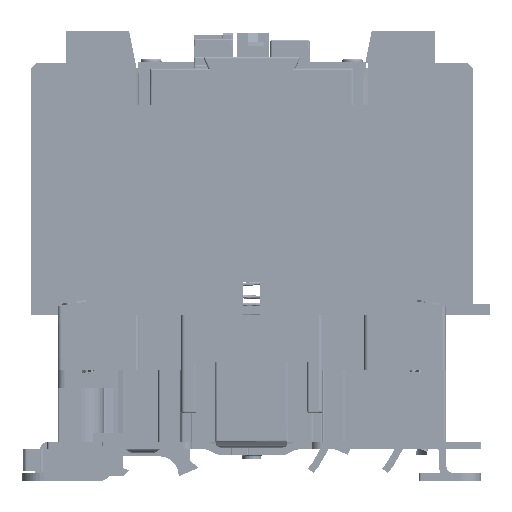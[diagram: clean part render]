
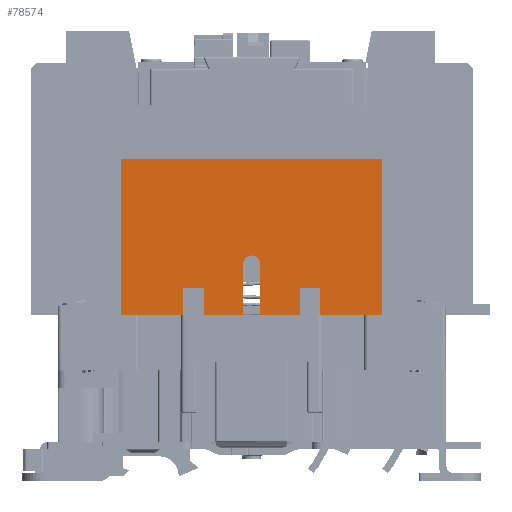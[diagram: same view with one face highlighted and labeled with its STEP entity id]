
A CAD part, front view. The second image highlights one B-rep face of the part: STEP entity #78574.
In plain terms, the highlighted planar face has unit normal (0, -1, 0) as drawn and (1, 0, 0) by its records, which use the part's own axes.
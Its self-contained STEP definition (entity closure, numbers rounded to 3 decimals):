
#74211=DIRECTION('',(0.,0.,-1.));
#74212=VECTOR('',#74211,10.9);
#74213=CARTESIAN_POINT('',(71.2,0.,-2.35));
#74214=LINE('',#74213,#74212);
#74227=DIRECTION('',(0.,0.,-1.));
#74228=VECTOR('',#74227,17.15);
#74229=CARTESIAN_POINT('',(71.2,0.,-18.85));
#74230=LINE('',#74229,#74228);
#74363=DIRECTION('',(0.,0.,-1.));
#74364=VECTOR('',#74363,17.15);
#74365=CARTESIAN_POINT('',(71.2,0.,36.));
#74366=LINE('',#74365,#74364);
#74379=DIRECTION('',(0.,0.,-1.));
#74380=VECTOR('',#74379,10.9);
#74381=CARTESIAN_POINT('',(71.2,0.,13.25));
#74382=LINE('',#74381,#74380);
#75579=DIRECTION('',(0.,1.,0.));
#75580=VECTOR('',#75579,14.15);
#75581=CARTESIAN_POINT('',(71.2,0.,2.35));
#75582=LINE('',#75581,#75580);
#75583=DIRECTION('',(0.,-1.,0.));
#75584=VECTOR('',#75583,43.);
#75585=CARTESIAN_POINT('',(71.2,43.,36.));
#75586=LINE('',#75585,#75584);
#75587=DIRECTION('',(0.,0.,1.));
#75588=VECTOR('',#75587,72.);
#75589=CARTESIAN_POINT('',(71.2,43.,-36.));
#75590=LINE('',#75589,#75588);
#75591=DIRECTION('',(0.,1.,0.));
#75592=VECTOR('',#75591,43.);
#75593=CARTESIAN_POINT('',(71.2,0.,-36.));
#75594=LINE('',#75593,#75592);
#75785=DIRECTION('',(0.,1.,0.));
#75786=VECTOR('',#75785,7.5);
#75787=CARTESIAN_POINT('',(71.2,0.,-18.85));
#75788=LINE('',#75787,#75786);
#75813=DIRECTION('',(0.,-1.,0.));
#75814=VECTOR('',#75813,7.5);
#75815=CARTESIAN_POINT('',(71.2,7.5,18.85));
#75816=LINE('',#75815,#75814);
#75821=DIRECTION('',(0.,0.,1.));
#75822=VECTOR('',#75821,5.6);
#75823=CARTESIAN_POINT('',(71.2,7.5,13.25));
#75824=LINE('',#75823,#75822);
#75829=DIRECTION('',(0.,1.,0.));
#75830=VECTOR('',#75829,7.5);
#75831=CARTESIAN_POINT('',(71.2,0.,13.25));
#75832=LINE('',#75831,#75830);
#75833=DIRECTION('',(0.,-1.,0.));
#75834=VECTOR('',#75833,7.5);
#75835=CARTESIAN_POINT('',(71.2,7.5,-13.25));
#75836=LINE('',#75835,#75834);
#75841=DIRECTION('',(0.,0.,1.));
#75842=VECTOR('',#75841,5.6);
#75843=CARTESIAN_POINT('',(71.2,7.5,-18.85));
#75844=LINE('',#75843,#75842);
#75857=DIRECTION('',(0.,-1.,0.));
#75858=VECTOR('',#75857,14.15);
#75859=CARTESIAN_POINT('',(71.2,14.15,-2.35));
#75860=LINE('',#75859,#75858);
#75870=CARTESIAN_POINT('',(71.2,14.15,0.));
#75871=DIRECTION('',(-1.,0.,0.));
#75872=DIRECTION('',(0.,0.,1.));
#75873=AXIS2_PLACEMENT_3D('',#75870,#75871,#75872);
#76419=CARTESIAN_POINT('',(71.2,43.,-36.));
#76420=CARTESIAN_POINT('',(71.2,43.,36.));
#76421=VERTEX_POINT('',#76419);
#76422=VERTEX_POINT('',#76420);
#76423=CARTESIAN_POINT('',(71.2,0.,36.));
#76424=CARTESIAN_POINT('',(71.2,0.,18.85));
#76425=VERTEX_POINT('',#76423);
#76426=VERTEX_POINT('',#76424);
#76427=CARTESIAN_POINT('',(71.2,0.,13.25));
#76428=CARTESIAN_POINT('',(71.2,0.,2.35));
#76429=VERTEX_POINT('',#76427);
#76430=VERTEX_POINT('',#76428);
#76431=CARTESIAN_POINT('',(71.2,0.,-2.35));
#76432=CARTESIAN_POINT('',(71.2,0.,-13.25));
#76433=VERTEX_POINT('',#76431);
#76434=VERTEX_POINT('',#76432);
#76435=CARTESIAN_POINT('',(71.2,0.,-18.85));
#76436=CARTESIAN_POINT('',(71.2,0.,-36.));
#76437=VERTEX_POINT('',#76435);
#76438=VERTEX_POINT('',#76436);
#76447=CARTESIAN_POINT('',(71.2,14.15,2.35));
#76448=VERTEX_POINT('',#76447);
#76449=CARTESIAN_POINT('',(71.2,14.15,-2.35));
#76450=VERTEX_POINT('',#76449);
#76451=CARTESIAN_POINT('',(71.2,7.5,13.25));
#76452=VERTEX_POINT('',#76451);
#76453=CARTESIAN_POINT('',(71.2,7.5,18.85));
#76454=VERTEX_POINT('',#76453);
#76455=CARTESIAN_POINT('',(71.2,7.5,-13.25));
#76456=VERTEX_POINT('',#76455);
#76457=CARTESIAN_POINT('',(71.2,7.5,-18.85));
#76458=VERTEX_POINT('',#76457);
#78540=CARTESIAN_POINT('',(71.2,0.,0.));
#78541=DIRECTION('',(1.,0.,0.));
#78542=DIRECTION('',(0.,0.,-1.));
#78543=AXIS2_PLACEMENT_3D('',#78540,#78541,#78542);
#78544=PLANE('',#78543);
#78545=ORIENTED_EDGE('',*,*,#76674,.F.);
#78547=ORIENTED_EDGE('',*,*,#78546,.F.);
#78549=ORIENTED_EDGE('',*,*,#78548,.F.);
#78551=ORIENTED_EDGE('',*,*,#78550,.F.);
#78552=ORIENTED_EDGE('',*,*,#76556,.F.);
#78554=ORIENTED_EDGE('',*,*,#78553,.T.);
#78556=ORIENTED_EDGE('',*,*,#78555,.T.);
#78558=ORIENTED_EDGE('',*,*,#78557,.T.);
#78559=ORIENTED_EDGE('',*,*,#76548,.F.);
#78561=ORIENTED_EDGE('',*,*,#78560,.F.);
#78563=ORIENTED_EDGE('',*,*,#78562,.F.);
#78564=ORIENTED_EDGE('',*,*,#78533,.F.);
#78565=ORIENTED_EDGE('',*,*,#76682,.F.);
#78567=ORIENTED_EDGE('',*,*,#78566,.T.);
#78569=ORIENTED_EDGE('',*,*,#78568,.T.);
#78571=ORIENTED_EDGE('',*,*,#78570,.T.);
#78572=EDGE_LOOP('',(#78545,#78547,#78549,#78551,#78552,#78554,#78556,#78558,
#78559,#78561,#78563,#78564,#78565,#78567,#78569,#78571));
#78573=FACE_OUTER_BOUND('',#78572,.F.);
#78574=ADVANCED_FACE('',(#78573),#78544,.T.);
#75874=CIRCLE('',#75873,2.35);
#76548=EDGE_CURVE('',#76433,#76434,#74214,.T.);
#76556=EDGE_CURVE('',#76437,#76438,#74230,.T.);
#76674=EDGE_CURVE('',#76425,#76426,#74366,.T.);
#76682=EDGE_CURVE('',#76429,#76430,#74382,.T.);
#78533=EDGE_CURVE('',#76430,#76448,#75582,.T.);
#78546=EDGE_CURVE('',#76422,#76425,#75586,.T.);
#78548=EDGE_CURVE('',#76421,#76422,#75590,.T.);
#78550=EDGE_CURVE('',#76438,#76421,#75594,.T.);
#78553=EDGE_CURVE('',#76437,#76458,#75788,.T.);
#78555=EDGE_CURVE('',#76458,#76456,#75844,.T.);
#78557=EDGE_CURVE('',#76456,#76434,#75836,.T.);
#78560=EDGE_CURVE('',#76450,#76433,#75860,.T.);
#78562=EDGE_CURVE('',#76448,#76450,#75874,.T.);
#78566=EDGE_CURVE('',#76429,#76452,#75832,.T.);
#78568=EDGE_CURVE('',#76452,#76454,#75824,.T.);
#78570=EDGE_CURVE('',#76454,#76426,#75816,.T.);
